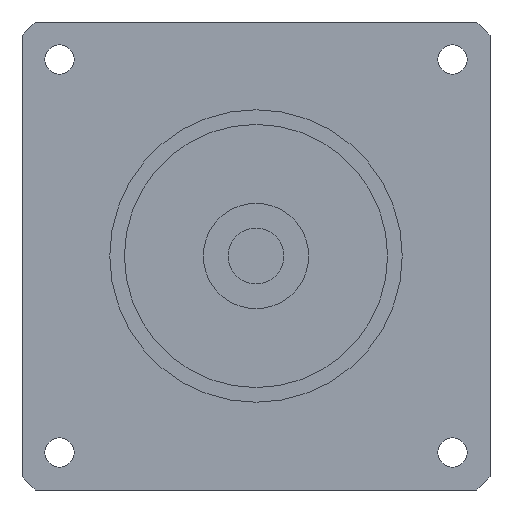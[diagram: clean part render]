
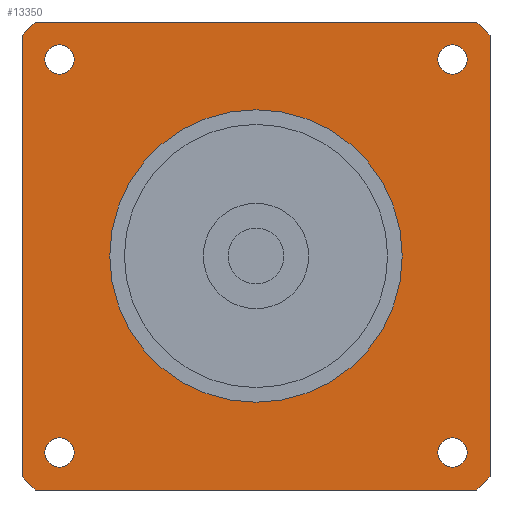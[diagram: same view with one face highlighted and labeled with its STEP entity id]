
A CAD part, left-side view. The second image highlights one B-rep face of the part: STEP entity #13350.
In plain terms, the highlighted planar face has unit normal (-1, 0, 0) as drawn and (0, 0, -1) by its records, which use the part's own axes.
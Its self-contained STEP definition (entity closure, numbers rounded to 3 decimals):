
#8640=CARTESIAN_POINT('',(-37.749,40.,-42.2));
#8650=VERTEX_POINT('',#8640);
#8830=CARTESIAN_POINT('',(-40.,37.749,-42.2));
#8840=VERTEX_POINT('',#8830);
#8870=CARTESIAN_POINT('',(0.,0.,
-42.2));
#8880=DIRECTION('',(0.,0.,1.));
#8890=DIRECTION('',(0.,1.,0.));
#8900=AXIS2_PLACEMENT_3D('',#8870,#8880,#8890);
#8910=CIRCLE('',#8900,55.);
#8920=EDGE_CURVE('',#8650,#8840,#8910,.T.);
#9060=CARTESIAN_POINT('',(-40.,-37.749,-42.2));
#9070=VERTEX_POINT('',#9060);
#9120=CARTESIAN_POINT('',(-40.,40.,-42.2));
#9130=DIRECTION('',(0.,-1.,0.));
#9140=VECTOR('',#9130,1000.);
#9150=LINE('',#9120,#9140);
#9160=EDGE_CURVE('',#8840,#9070,#9150,.T.);
#11890=CARTESIAN_POINT('',(33.588,-31.088,-42.2));
#11900=VERTEX_POINT('',#11890);
#11980=CARTESIAN_POINT('',(33.588,-36.088,-42.2));
#11990=VERTEX_POINT('',#11980);
#12020=CARTESIAN_POINT('',(33.588,-33.588,-42.2));
#12030=DIRECTION('',(0.,0.,1.));
#12040=DIRECTION('',(0.,1.,0.));
#12050=AXIS2_PLACEMENT_3D('',#12020,#12030,#12040);
#12060=CIRCLE('',#12050,2.5);
#12070=EDGE_CURVE('',#11990,#11900,#12060,.T.);
#12120=CARTESIAN_POINT('',(40.,-40.,-42.2));
#12130=DIRECTION('',(0.,0.,1.));
#12140=DIRECTION('',(0.,1.,0.));
#12150=AXIS2_PLACEMENT_3D('',#12120,#12130,#12140);
#12160=PLANE('',#12150);
#12170=CARTESIAN_POINT('',(-33.588,-33.588,-42.2));
#12180=DIRECTION('',(0.,0.,1.));
#12190=DIRECTION('',(0.,1.,0.));
#12200=AXIS2_PLACEMENT_3D('',#12170,#12180,#12190);
#12210=CIRCLE('',#12200,2.5);
#12220=CARTESIAN_POINT('',(-33.588,-31.088,-42.2));
#12230=VERTEX_POINT('',#12220);
#12240=CARTESIAN_POINT('',(-33.588,-36.088,-42.2));
#12250=VERTEX_POINT('',#12240);
#12260=EDGE_CURVE('',#12230,#12250,#12210,.T.);
#12270=ORIENTED_EDGE('',*,*,#12260,.T.);
#12280=EDGE_CURVE('',#12250,#12230,#12210,.T.);
#12290=ORIENTED_EDGE('',*,*,#12280,.T.);
#12300=EDGE_LOOP('',(#12290,#12270));
#12310=FACE_BOUND('',#12300,.T.);
#12320=CARTESIAN_POINT('',(33.588,33.588,-42.2));
#12330=DIRECTION('',(0.,0.,1.));
#12340=DIRECTION('',(0.,1.,0.));
#12350=AXIS2_PLACEMENT_3D('',#12320,#12330,#12340);
#12360=CIRCLE('',#12350,2.5);
#12370=CARTESIAN_POINT('',(33.588,36.088,-42.2));
#12380=VERTEX_POINT('',#12370);
#12390=CARTESIAN_POINT('',(33.588,31.088,-42.2));
#12400=VERTEX_POINT('',#12390);
#12410=EDGE_CURVE('',#12380,#12400,#12360,.T.);
#12420=ORIENTED_EDGE('',*,*,#12410,.T.);
#12430=EDGE_CURVE('',#12400,#12380,#12360,.T.);
#12440=ORIENTED_EDGE('',*,*,#12430,.T.);
#12450=EDGE_LOOP('',(#12440,#12420));
#12460=FACE_BOUND('',#12450,.T.);
#12470=CARTESIAN_POINT('',(-33.588,33.588,-42.2));
#12480=DIRECTION('',(0.,0.,1.));
#12490=DIRECTION('',(0.,1.,0.));
#12500=AXIS2_PLACEMENT_3D('',#12470,#12480,#12490);
#12510=CIRCLE('',#12500,2.5);
#12520=CARTESIAN_POINT('',(-33.588,36.088,-42.2));
#12530=VERTEX_POINT('',#12520);
#12540=CARTESIAN_POINT('',(-33.588,31.088,-42.2));
#12550=VERTEX_POINT('',#12540);
#12560=EDGE_CURVE('',#12530,#12550,#12510,.T.);
#12570=ORIENTED_EDGE('',*,*,#12560,.T.);
#12580=EDGE_CURVE('',#12550,#12530,#12510,.T.);
#12590=ORIENTED_EDGE('',*,*,#12580,.T.);
#12600=EDGE_LOOP('',(#12590,#12570));
#12610=FACE_BOUND('',#12600,.T.);
#12620=CARTESIAN_POINT('',(0.,0.,
-42.2));
#12630=DIRECTION('',(0.,0.,1.));
#12640=DIRECTION('',(0.,-1.,0.));
#12650=AXIS2_PLACEMENT_3D('',#12620,#12630,#12640);
#12660=CIRCLE('',#12650,25.);
#12670=CARTESIAN_POINT('',(0.,-25.,-42.2));
#12680=VERTEX_POINT('',#12670);
#12690=CARTESIAN_POINT('',(0.,25.,-42.2));
#12700=VERTEX_POINT('',#12690);
#12710=EDGE_CURVE('',#12680,#12700,#12660,.T.);
#12720=ORIENTED_EDGE('',*,*,#12710,.T.);
#12730=EDGE_CURVE('',#12700,#12680,#12660,.T.);
#12740=ORIENTED_EDGE('',*,*,#12730,.T.);
#12750=EDGE_LOOP('',(#12740,#12720));
#12760=FACE_BOUND('',#12750,.T.);
#12770=EDGE_CURVE('',#11900,#11990,#12060,.T.);
#12780=ORIENTED_EDGE('',*,*,#12770,.T.);
#12790=ORIENTED_EDGE('',*,*,#12070,.T.);
#12800=EDGE_LOOP('',(#12790,#12780));
#12810=FACE_BOUND('',#12800,.T.);
#12820=ORIENTED_EDGE('',*,*,#8920,.F.);
#12830=ORIENTED_EDGE('',*,*,#9160,.F.);
#12840=CARTESIAN_POINT('',(0.,0.,
-42.2));
#12850=DIRECTION('',(0.,0.,1.));
#12860=DIRECTION('',(0.,1.,0.));
#12870=AXIS2_PLACEMENT_3D('',#12840,#12850,#12860);
#12880=CIRCLE('',#12870,55.);
#12890=CARTESIAN_POINT('',(-37.749,-40.,-42.2));
#12900=VERTEX_POINT('',#12890);
#12910=EDGE_CURVE('',#9070,#12900,#12880,.T.);
#12920=ORIENTED_EDGE('',*,*,#12910,.F.);
#12930=CARTESIAN_POINT('',(-40.,-40.,-42.2));
#12940=DIRECTION('',(1.,0.,0.));
#12950=VECTOR('',#12940,1000.);
#12960=LINE('',#12930,#12950);
#12970=CARTESIAN_POINT('',(37.749,-40.,-42.2));
#12980=VERTEX_POINT('',#12970);
#12990=EDGE_CURVE('',#12900,#12980,#12960,.T.);
#13000=ORIENTED_EDGE('',*,*,#12990,.F.);
#13010=CARTESIAN_POINT('',(0.,0.,
-42.2));
#13020=DIRECTION('',(0.,0.,1.));
#13030=DIRECTION('',(0.,1.,0.));
#13040=AXIS2_PLACEMENT_3D('',#13010,#13020,#13030);
#13050=CIRCLE('',#13040,55.);
#13060=CARTESIAN_POINT('',(40.,-37.749,-42.2));
#13070=VERTEX_POINT('',#13060);
#13080=EDGE_CURVE('',#12980,#13070,#13050,.T.);
#13090=ORIENTED_EDGE('',*,*,#13080,.F.);
#13100=CARTESIAN_POINT('',(40.,-40.,-42.2));
#13110=DIRECTION('',(0.,1.,0.));
#13120=VECTOR('',#13110,1000.);
#13130=LINE('',#13100,#13120);
#13140=CARTESIAN_POINT('',(40.,37.749,-42.2));
#13150=VERTEX_POINT('',#13140);
#13160=EDGE_CURVE('',#13070,#13150,#13130,.T.);
#13170=ORIENTED_EDGE('',*,*,#13160,.F.);
#13180=CARTESIAN_POINT('',(0.,0.,
-42.2));
#13190=DIRECTION('',(0.,0.,1.));
#13200=DIRECTION('',(0.,1.,0.));
#13210=AXIS2_PLACEMENT_3D('',#13180,#13190,#13200);
#13220=CIRCLE('',#13210,55.);
#13230=CARTESIAN_POINT('',(37.749,40.,-42.2));
#13240=VERTEX_POINT('',#13230);
#13250=EDGE_CURVE('',#13150,#13240,#13220,.T.);
#13260=ORIENTED_EDGE('',*,*,#13250,.F.);
#13270=CARTESIAN_POINT('',(40.,40.,-42.2));
#13280=DIRECTION('',(-1.,0.,0.));
#13290=VECTOR('',#13280,1000.);
#13300=LINE('',#13270,#13290);
#13310=EDGE_CURVE('',#13240,#8650,#13300,.T.);
#13320=ORIENTED_EDGE('',*,*,#13310,.F.);
#13330=EDGE_LOOP('',(#13320,#13260,#13170,#13090,#13000,#12920,#12830,
#12820));
#13340=FACE_OUTER_BOUND('',#13330,.T.);
#13350=ADVANCED_FACE('',(#12310,#12460,#12610,#12760,#12810,#13340),
#12160,.F.);
